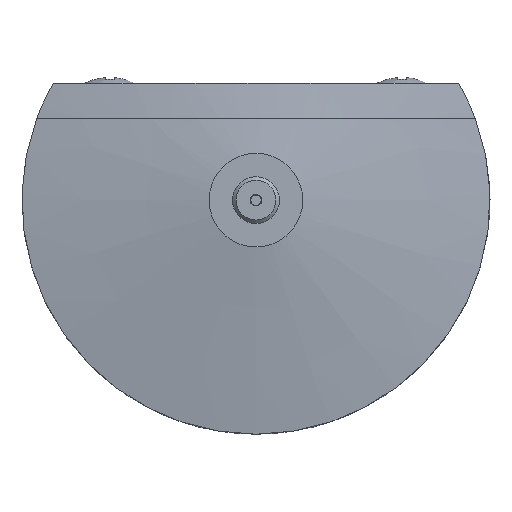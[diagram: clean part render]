
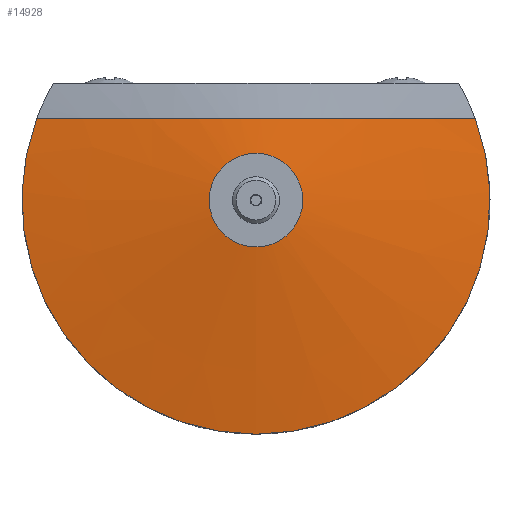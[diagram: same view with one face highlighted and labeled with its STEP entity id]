
A CAD part, front view. The second image highlights one B-rep face of the part: STEP entity #14928.
In plain terms, the highlighted conical face has half-angle 81.5 degrees and reference radius 4 mm.
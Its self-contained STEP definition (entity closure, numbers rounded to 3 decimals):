
#2111 = CARTESIAN_POINT ( 'NONE',  ( 1.609, 0.449, 7. ) ) ;
#2907 = VERTEX_POINT ( 'NONE', #28528 ) ;
#3053 = AXIS2_PLACEMENT_3D ( 'NONE', #37236, #16988, #40630 ) ;
#3465 = CARTESIAN_POINT ( 'NONE',  ( 0., 0., 0. ) ) ;
#5519 = CARTESIAN_POINT ( 'NONE',  ( -3.122, 0.531, 7. ) ) ;
#6884 = DIRECTION ( 'NONE',  ( 0., 0., -1. ) ) ;
#8907 = CARTESIAN_POINT ( 'NONE',  ( -7.818, 0.964, 7. ) ) ;
#9323 = EDGE_CURVE ( 'NONE', #14784, #2907, #39505, .T. ) ;
#10101 = ORIENTED_EDGE ( 'NONE', *, *, #9323, .T. ) ;
#12141 = CARTESIAN_POINT ( 'NONE',  ( 17.184, 2.174, 7. ) ) ;
#12278 = CARTESIAN_POINT ( 'NONE',  ( -12.5, 1.541, 7. ) ) ;
#13085 = CONICAL_SURFACE ( 'NONE', #25144, 4., 1.422 ) ;
#14784 = VERTEX_POINT ( 'NONE', #41690 ) ;
#14928 = ADVANCED_FACE ( 'NONE', ( #41064, #32006 ), #13085, .T. ) ;
#15505 = CARTESIAN_POINT ( 'NONE',  ( 12.527, 1.544, 7. ) ) ;
#15654 = CARTESIAN_POINT ( 'NONE',  ( -17.177, 2.173, 7. ) ) ;
#16988 = DIRECTION ( 'NONE',  ( 0., 1., 0. ) ) ;
#17690 = ORIENTED_EDGE ( 'NONE', *, *, #33809, .F. ) ;
#18905 = CARTESIAN_POINT ( 'NONE',  ( 7.862, 0.969, 7. ) ) ;
#20121 = ORIENTED_EDGE ( 'NONE', *, *, #25051, .F. ) ;
#20889 = CIRCLE ( 'NONE', #3053, 20. ) ;
#22186 = DIRECTION ( 'NONE',  ( 0., 1., 0. ) ) ;
#22286 = CARTESIAN_POINT ( 'NONE',  ( 3.179, 0.535, 7. ) ) ;
#25051 = EDGE_CURVE ( 'NONE', #14784, #2907, #20889, .T. ) ;
#25144 = AXIS2_PLACEMENT_3D ( 'NONE', #25566, #22186, #33110 ) ;
#25566 = CARTESIAN_POINT ( 'NONE',  ( 0., 0., 0. ) ) ;
#25674 = CARTESIAN_POINT ( 'NONE',  ( -1.551, 0.447, 7. ) ) ;
#26997 = DIRECTION ( 'NONE',  ( 0., -1., 0. ) ) ;
#27264 = EDGE_LOOP ( 'NONE', ( #10101, #20121 ) ) ;
#28528 = CARTESIAN_POINT ( 'NONE',  ( -18.735, 2.391, 7. ) ) ;
#28997 = CARTESIAN_POINT ( 'NONE',  ( -6.256, 0.792, 7. ) ) ;
#29284 = CARTESIAN_POINT ( 'NONE',  ( 0., 0., -4. ) ) ;
#30173 = AXIS2_PLACEMENT_3D ( 'NONE', #3465, #26997, #6884 ) ;
#32006 = FACE_OUTER_BOUND ( 'NONE', #27264, .T. ) ;
#32192 = CIRCLE ( 'NONE', #30173, 4. ) ;
#32263 = CARTESIAN_POINT ( 'NONE',  ( 18.735, 2.391, 7. ) ) ;
#32379 = EDGE_LOOP ( 'NONE', ( #17690 ) ) ;
#32421 = CARTESIAN_POINT ( 'NONE',  ( -10.941, 1.338, 7. ) ) ;
#33110 = DIRECTION ( 'NONE',  ( 0., 0., -1. ) ) ;
#33809 = EDGE_CURVE ( 'NONE', #43253, #43253, #32192, .T. ) ;
#35726 = CARTESIAN_POINT ( 'NONE',  ( 15.632, 1.96, 7. ) ) ;
#35868 = CARTESIAN_POINT ( 'NONE',  ( -15.619, 1.958, 7. ) ) ;
#37236 = CARTESIAN_POINT ( 'NONE',  ( 0., 2.391, 0. ) ) ;
#39085 = CARTESIAN_POINT ( 'NONE',  ( 10.973, 1.342, 7. ) ) ;
#39235 = CARTESIAN_POINT ( 'NONE',  ( -18.735, 2.391, 7. ) ) ;
#39505 = B_SPLINE_CURVE_WITH_KNOTS ( 'NONE', 3,
 ( #32263, #12141, #35726, #15505, #39085, #18905, #42519, #22286, #2111, #25674, #5519, #28997, #8907, #32421, #12278, #35868, #15654, #39235 ),
 .UNSPECIFIED., .F., .F.,
 ( 4, 2, 2, 2, 2, 2, 2, 2, 4 ),
 ( 0.049, 0.054, 0.058, 0.063, 0.068, 0.073, 0.077, 0.082, 0.087 ),
 .UNSPECIFIED. ) ;
#40630 = DIRECTION ( 'NONE',  ( 0., 0., 1. ) ) ;
#41064 = FACE_BOUND ( 'NONE', #32379, .T. ) ;
#41690 = CARTESIAN_POINT ( 'NONE',  ( 18.735, 2.391, 7. ) ) ;
#42519 = CARTESIAN_POINT ( 'NONE',  ( 6.305, 0.797, 7. ) ) ;
#43253 = VERTEX_POINT ( 'NONE', #29284 ) ;
